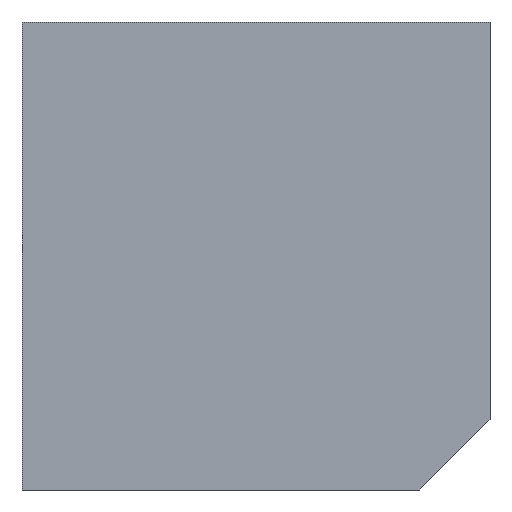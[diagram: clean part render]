
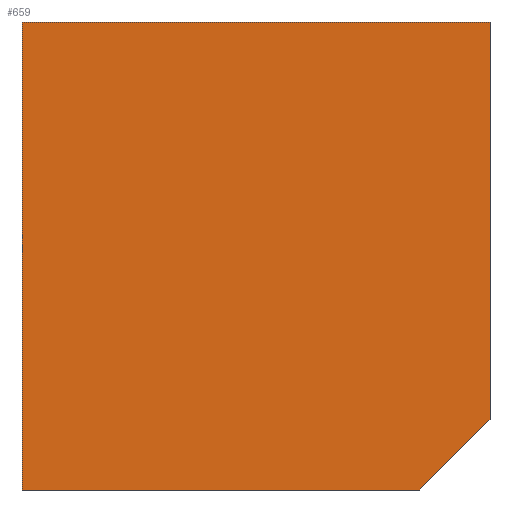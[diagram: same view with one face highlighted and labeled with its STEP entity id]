
A CAD part, front view. The second image highlights one B-rep face of the part: STEP entity #659.
In plain terms, the highlighted planar face has unit normal (0, -1, 0).
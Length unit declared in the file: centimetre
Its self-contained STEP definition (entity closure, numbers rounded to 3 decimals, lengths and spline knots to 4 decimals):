
#33 = ORIENTED_EDGE ( 'NONE', *, *, #286, .T. ) ;
#72 = CARTESIAN_POINT ( 'NONE',  ( 1000., 0., 150.745 ) ) ;
#82 = LINE ( 'NONE', #621, #589 ) ;
#105 = DIRECTION ( 'NONE',  ( 0., 1., 0. ) ) ;
#158 = ORIENTED_EDGE ( 'NONE', *, *, #554, .F. ) ;
#196 = DIRECTION ( 'NONE',  ( 0.707, 0., 0.707 ) ) ;
#213 = ORIENTED_EDGE ( 'NONE', *, *, #757, .T. ) ;
#239 = VECTOR ( 'NONE', #196, 100. ) ;
#267 = CARTESIAN_POINT ( 'NONE',  ( 0., 0., 0. ) ) ;
#269 = LINE ( 'NONE', #267, #799 ) ;
#273 = ORIENTED_EDGE ( 'NONE', *, *, #502, .T. ) ;
#285 = DIRECTION ( 'NONE',  ( 1., 0., 0. ) ) ;
#286 = EDGE_CURVE ( 'NONE', #384, #696, #269, .T. ) ;
#307 = CARTESIAN_POINT ( 'NONE',  ( 0., 0., 1000. ) ) ;
#314 = PLANE ( 'NONE',  #599 ) ;
#321 = CARTESIAN_POINT ( 'NONE',  ( 849.255, 0., 0. ) ) ;
#384 = VERTEX_POINT ( 'NONE', #670 ) ;
#399 = EDGE_CURVE ( 'NONE', #421, #562, #744, .T. ) ;
#421 = VERTEX_POINT ( 'NONE', #480 ) ;
#480 = CARTESIAN_POINT ( 'NONE',  ( 1000., 0., 1000. ) ) ;
#498 = EDGE_LOOP ( 'NONE', ( #33, #213, #637, #158, #273 ) ) ;
#502 = EDGE_CURVE ( 'NONE', #651, #384, #662, .T. ) ;
#534 = DIRECTION ( 'NONE',  ( 1., 0., 0. ) ) ;
#543 = DIRECTION ( 'NONE',  ( 0., 0., -1. ) ) ;
#554 = EDGE_CURVE ( 'NONE', #651, #421, #82, .T. ) ;
#562 = VERTEX_POINT ( 'NONE', #616 ) ;
#570 = CARTESIAN_POINT ( 'NONE',  ( 0., 0., 1000. ) ) ;
#589 = VECTOR ( 'NONE', #285, 100. ) ;
#599 = AXIS2_PLACEMENT_3D ( 'NONE', #656, #105, #780 ) ;
#606 = DIRECTION ( 'NONE',  ( 0., 0., -1. ) ) ;
#616 = CARTESIAN_POINT ( 'NONE',  ( 1000., 0., 150.745 ) ) ;
#619 = CARTESIAN_POINT ( 'NONE',  ( 1000., 0., 1000. ) ) ;
#621 = CARTESIAN_POINT ( 'NONE',  ( 0., 0., 1000. ) ) ;
#637 = ORIENTED_EDGE ( 'NONE', *, *, #399, .F. ) ;
#648 = FACE_OUTER_BOUND ( 'NONE', #498, .T. ) ;
#651 = VERTEX_POINT ( 'NONE', #570 ) ;
#656 = CARTESIAN_POINT ( 'NONE',  ( 0., 0., 1000. ) ) ;
#659 = ADVANCED_FACE ( 'NONE', ( #648 ), #314, .F. ) ;
#662 = LINE ( 'NONE', #307, #774 ) ;
#670 = CARTESIAN_POINT ( 'NONE',  ( 0., 0., 0. ) ) ;
#696 = VERTEX_POINT ( 'NONE', #321 ) ;
#699 = VECTOR ( 'NONE', #543, 100. ) ;
#744 = LINE ( 'NONE', #619, #699 ) ;
#757 = EDGE_CURVE ( 'NONE', #696, #562, #867, .T. ) ;
#774 = VECTOR ( 'NONE', #606, 100. ) ;
#780 = DIRECTION ( 'NONE',  ( 0., 0., 1. ) ) ;
#799 = VECTOR ( 'NONE', #534, 100. ) ;
#867 = LINE ( 'NONE', #72, #239 ) ;
